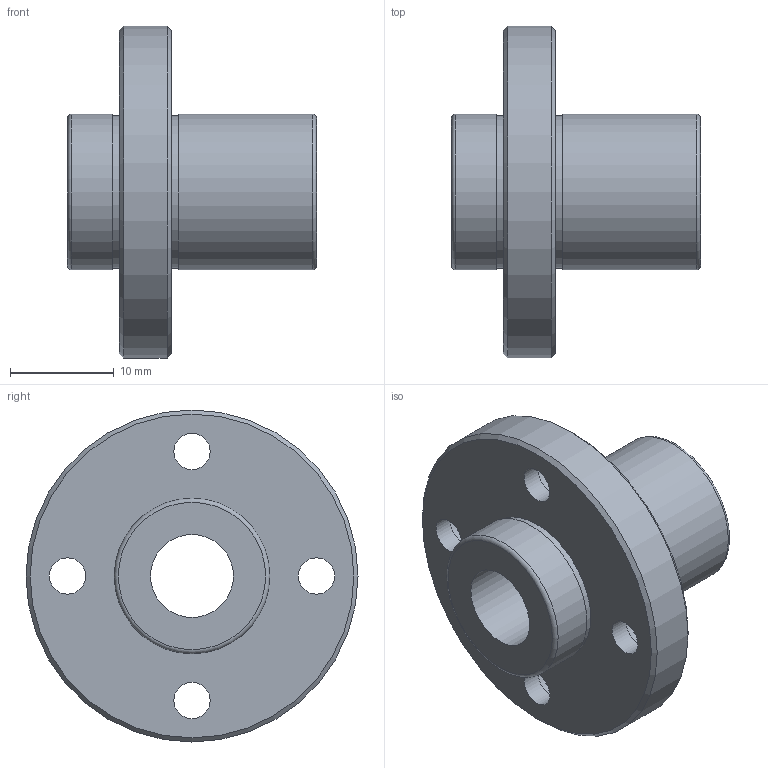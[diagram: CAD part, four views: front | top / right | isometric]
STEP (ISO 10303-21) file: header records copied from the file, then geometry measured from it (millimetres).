
FILE_DESCRIPTION(('STEP AP203'),'1');
FILE_NAME('//192.168.1.1/share/s-4 技術開発/s-4-4_CAD/s-4-4-3_見直し済み/002 修正済み/NFID-V/NFID-V_TOP/NFID-8VUU.step','2022-03-08T02:19:55',(' '),(' '),'Spatial InterOp 3D',' ',' ');
FILE_SCHEMA(('CONFIG_CONTROL_DESIGN'));
Length unit declared in the file: millimetre
Products named in the file (1): 1
Bounding box: 24 x 32 x 32 mm (x, y, z)
Volume: 5719.8 mm3; surface area: 3712.3 mm2
Topology: 1 solids, 1 shells, 28 faces, 58 edges, 40 vertices
Faces by surface type: cylinder 14, plane 10, torus 2, cone 2
Full cylindrical faces by diameter (mm): 3.5 x4, 6 x4, 8 x1, 14.7 x2, 15 x2, 32 x1
Entity records: 668 total; most frequent: DIRECTION 122, CARTESIAN_POINT 93, EDGE_LOOP 64, ORIENTED_EDGE 64, AXIS2_PLACEMENT_3D 61, FACE_OUTER_BOUND 44, EDGE_CURVE 32, VERTEX_POINT 32
